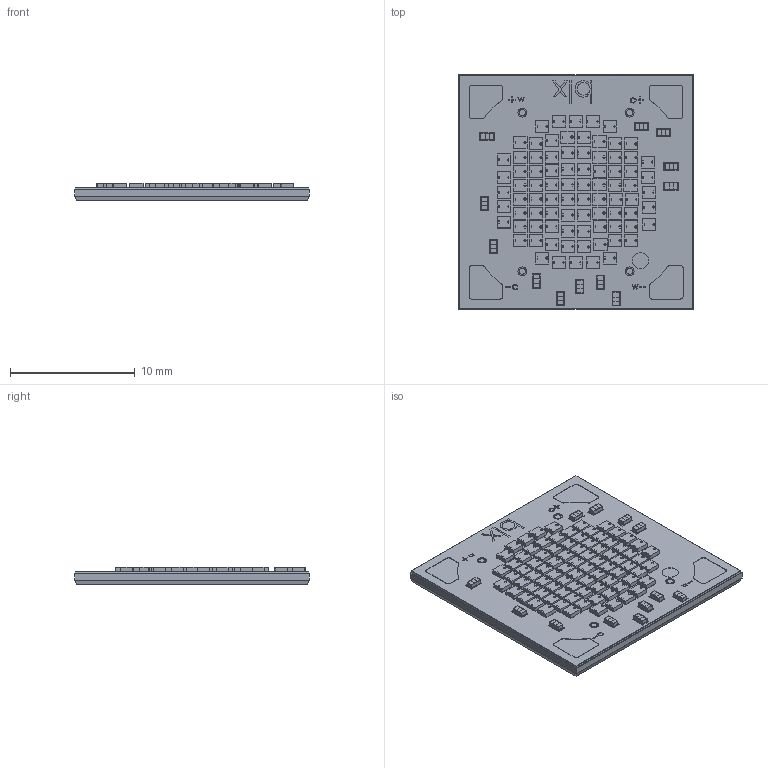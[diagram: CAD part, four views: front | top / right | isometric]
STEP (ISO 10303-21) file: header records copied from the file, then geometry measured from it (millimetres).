
FILE_DESCRIPTION (( 'STEP AP214' ), '1' );
FILE_NAME ('55-001190 Single Unit.STEP', '2017-07-05T22:26:45', ( '' ), ( '' ), 'SwSTEP 2.0', 'SolidWorks 2017', '' );
FILE_SCHEMA (( 'AUTOMOTIVE_DESIGN' ));
Length unit declared in the file: millimetre
Products named in the file (2): 55-001190 Single Unit
Bounding box: 18.8 x 18.8 x 1.42 mm (x, y, z)
Volume: 395.5 mm3; surface area: 1910.1 mm2
Topology: 632 solids, 632 shells, 8559 faces, 20503 edges, 13232 vertices
Faces by surface type: plane 7699, cylinder 620, sphere 240
Entity records: 341279 total; most frequent: CARTESIAN_POINT 42665, ORIENTED_EDGE 40526, DIRECTION 38209, EDGE_CURVE 20263, LINE 19119, VECTOR 19119, VERTEX_POINT 13232, AXIS2_PLACEMENT_3D 9545
